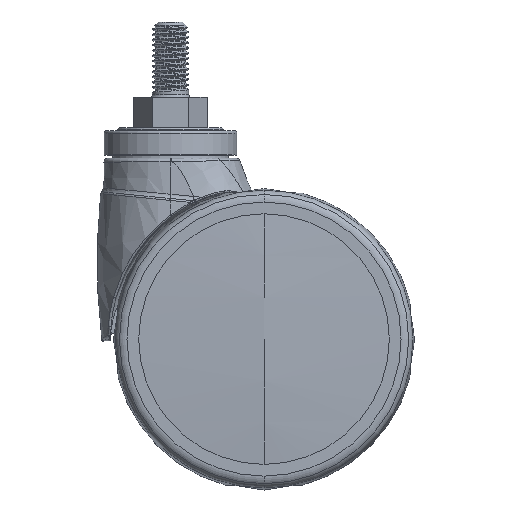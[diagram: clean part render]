
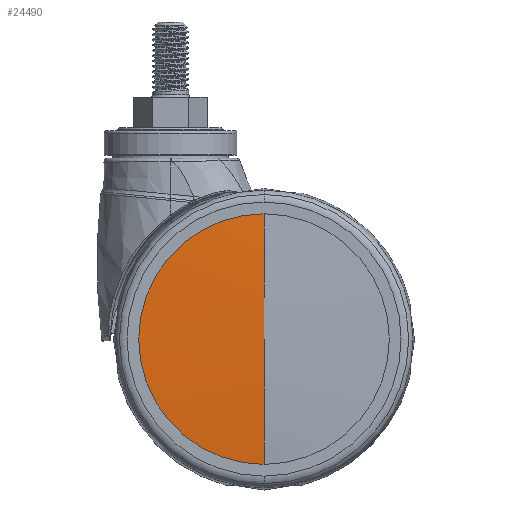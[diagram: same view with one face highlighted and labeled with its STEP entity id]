
A CAD part, top view. The second image highlights one B-rep face of the part: STEP entity #24490.
In plain terms, the highlighted spherical face has radius 560 mm.
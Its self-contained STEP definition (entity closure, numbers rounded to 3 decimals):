
#24331=CARTESIAN_POINT('',(-557.073,0.,0.));
#24332=DIRECTION('',(0.,0.,1.));
#24333=DIRECTION('',(1.,0.,0.));
#24334=AXIS2_PLACEMENT_3D('',#24331,#24332,#24333);
#24336=CARTESIAN_POINT('',(-557.073,0.,0.));
#24337=DIRECTION('',(0.,0.,-1.));
#24338=DIRECTION('',(1.,0.,0.));
#24339=AXIS2_PLACEMENT_3D('',#24336,#24337,#24338);
#24354=CARTESIAN_POINT('',(1.384,0.,0.));
#24355=DIRECTION('',(1.,0.,0.));
#24356=DIRECTION('',(0.,1.,0.));
#24357=AXIS2_PLACEMENT_3D('',#24354,#24355,#24356);
#24449=CARTESIAN_POINT('',(2.927,0.,0.));
#24450=CARTESIAN_POINT('',(1.384,41.55,0.));
#24451=VERTEX_POINT('',#24449);
#24452=VERTEX_POINT('',#24450);
#24465=CARTESIAN_POINT('',(1.384,-41.55,
0.));
#24466=VERTEX_POINT('',#24465);
#24477=CARTESIAN_POINT('',(-557.073,0.,0.));
#24478=DIRECTION('',(1.,0.,0.));
#24479=DIRECTION('',(0.,-1.,0.));
#24480=AXIS2_PLACEMENT_3D('',#24477,#24478,#24479);
#24481=SPHERICAL_SURFACE('',#24480,560.);
#24483=ORIENTED_EDGE('',*,*,#24482,.F.);
#24485=ORIENTED_EDGE('',*,*,#24484,.T.);
#24487=ORIENTED_EDGE('',*,*,#24486,.F.);
#24488=EDGE_LOOP('',(#24483,#24485,#24487));
#24489=FACE_OUTER_BOUND('',#24488,.F.);
#24335=CIRCLE('',#24334,560.);
#24340=CIRCLE('',#24339,560.);
#24358=CIRCLE('',#24357,41.55);
#24482=EDGE_CURVE('',#24451,#24452,#24335,.T.);
#24484=EDGE_CURVE('',#24451,#24466,#24340,.T.);
#24486=EDGE_CURVE('',#24452,#24466,#24358,.T.);
#24490=ADVANCED_FACE('',(#24489),#24481,.T.);
